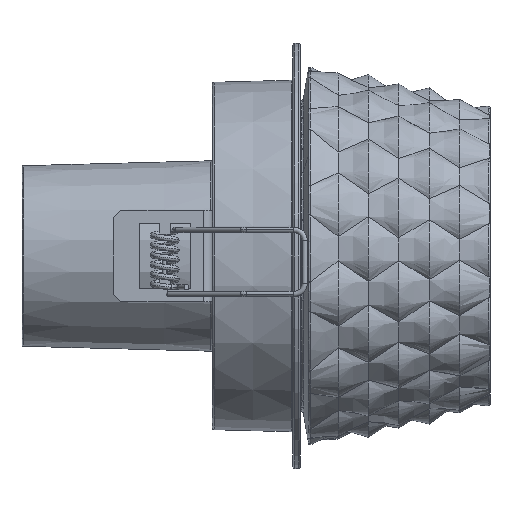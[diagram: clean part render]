
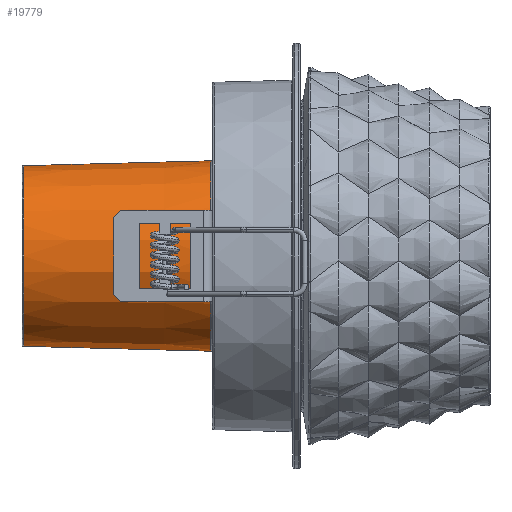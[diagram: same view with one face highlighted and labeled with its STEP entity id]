
A CAD part, left-side view. The second image highlights one B-rep face of the part: STEP entity #19779.
In plain terms, the highlighted conical face has half-angle 1.5 degrees and reference radius 26 mm.
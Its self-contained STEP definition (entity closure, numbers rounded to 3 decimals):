
#315 = DIRECTION ( 'NONE',  ( 0., -1., -0.026 ) ) ;
#2051 = VERTEX_POINT ( 'NONE', #29647 ) ;
#2749 = CARTESIAN_POINT ( 'NONE',  ( 0., 24., -26. ) ) ;
#3056 = EDGE_CURVE ( 'NONE', #9877, #2051, #24946, .T. ) ;
#3147 = EDGE_LOOP ( 'NONE', ( #29349, #21570, #22742, #25017 ) ) ;
#4107 = CARTESIAN_POINT ( 'NONE',  ( 0., 75.513, 0. ) ) ;
#4110 = VERTEX_POINT ( 'NONE', #27591 ) ;
#5207 = EDGE_CURVE ( 'NONE', #18868, #9877, #31509, .T. ) ;
#5945 = DIRECTION ( 'NONE',  ( 0., -1., 0. ) ) ;
#7782 = AXIS2_PLACEMENT_3D ( 'NONE', #7906, #12767, #24922 ) ;
#7809 = CARTESIAN_POINT ( 'NONE',  ( 0., 75.513, -24.651 ) ) ;
#7906 = CARTESIAN_POINT ( 'NONE',  ( 0., 24., 0. ) ) ;
#9877 = VERTEX_POINT ( 'NONE', #7809 ) ;
#11934 = EDGE_CURVE ( 'NONE', #2051, #4110, #21535, .T. ) ;
#12767 = DIRECTION ( 'NONE',  ( 0., -1., 0. ) ) ;
#13775 = LINE ( 'NONE', #23647, #25615 ) ;
#15031 = CONICAL_SURFACE ( 'NONE', #7782, 26., 0.026 ) ;
#18868 = VERTEX_POINT ( 'NONE', #31238 ) ;
#19779 = ADVANCED_FACE ( 'NONE', ( #30114 ), #15031, .T. ) ;
#20453 = DIRECTION ( 'NONE',  ( 0., 1., 0. ) ) ;
#20909 = CARTESIAN_POINT ( 'NONE',  ( 0., 24.487, 0. ) ) ;
#21535 = CIRCLE ( 'NONE', #25183, 25.987 ) ;
#21570 = ORIENTED_EDGE ( 'NONE', *, *, #5207, .T. ) ;
#21989 = VECTOR ( 'NONE', #315, 1000. ) ;
#22742 = ORIENTED_EDGE ( 'NONE', *, *, #3056, .T. ) ;
#23647 = CARTESIAN_POINT ( 'NONE',  ( 0., 24., 26. ) ) ;
#23815 = DIRECTION ( 'NONE',  ( 0., -1., 0.026 ) ) ;
#24189 = DIRECTION ( 'NONE',  ( 0., 0., 1. ) ) ;
#24922 = DIRECTION ( 'NONE',  ( 0., 0., -1. ) ) ;
#24946 = LINE ( 'NONE', #2749, #21989 ) ;
#25017 = ORIENTED_EDGE ( 'NONE', *, *, #11934, .T. ) ;
#25183 = AXIS2_PLACEMENT_3D ( 'NONE', #20909, #20453, #30349 ) ;
#25615 = VECTOR ( 'NONE', #23815, 1000. ) ;
#26861 = AXIS2_PLACEMENT_3D ( 'NONE', #4107, #5945, #24189 ) ;
#27591 = CARTESIAN_POINT ( 'NONE',  ( 0., 24.487, 25.987 ) ) ;
#28041 = EDGE_CURVE ( 'NONE', #18868, #4110, #13775, .T. ) ;
#29349 = ORIENTED_EDGE ( 'NONE', *, *, #28041, .F. ) ;
#29647 = CARTESIAN_POINT ( 'NONE',  ( 0., 24.487, -25.987 ) ) ;
#30114 = FACE_OUTER_BOUND ( 'NONE', #3147, .T. ) ;
#30349 = DIRECTION ( 'NONE',  ( 0., 0., -1. ) ) ;
#31238 = CARTESIAN_POINT ( 'NONE',  ( 0., 75.513, 24.651 ) ) ;
#31509 = CIRCLE ( 'NONE', #26861, 24.651 ) ;
